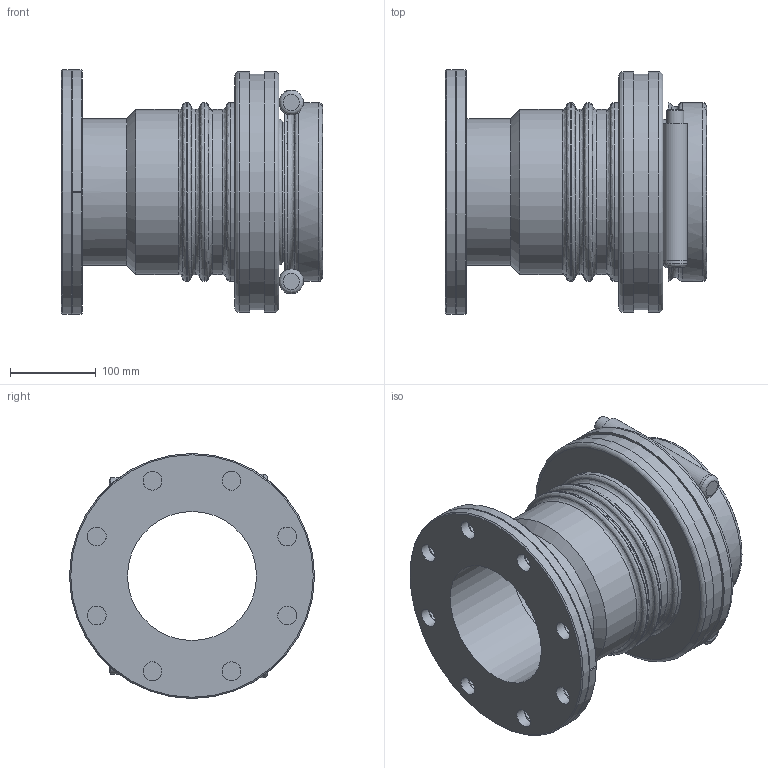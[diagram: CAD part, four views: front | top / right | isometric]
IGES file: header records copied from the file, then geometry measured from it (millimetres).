
Global section: file name: 072206160060_0722061600600A.ipt; native system: Autodesk Inventor 2015; preprocessor: unknown; author: KIM; date: 20170618.093359; units: millimetre
Bounding box: 304 x 285 x 285 mm (x, y, z)
Volume: 5520720.8 mm3; surface area: 563844.8 mm2
Topology: 1 solids, 1 shells, 115 faces, 317 edges, 214 vertices
Faces by surface type: revolution 60, plane 24, cylinder 22, cone 9
Full cylindrical faces by diameter (mm): 20.16 x2, 28.6 x2, 28.8 x2, 171 x1, 192 x3, 208 x4, 274.4 x1, 280 x2, 285 x1
